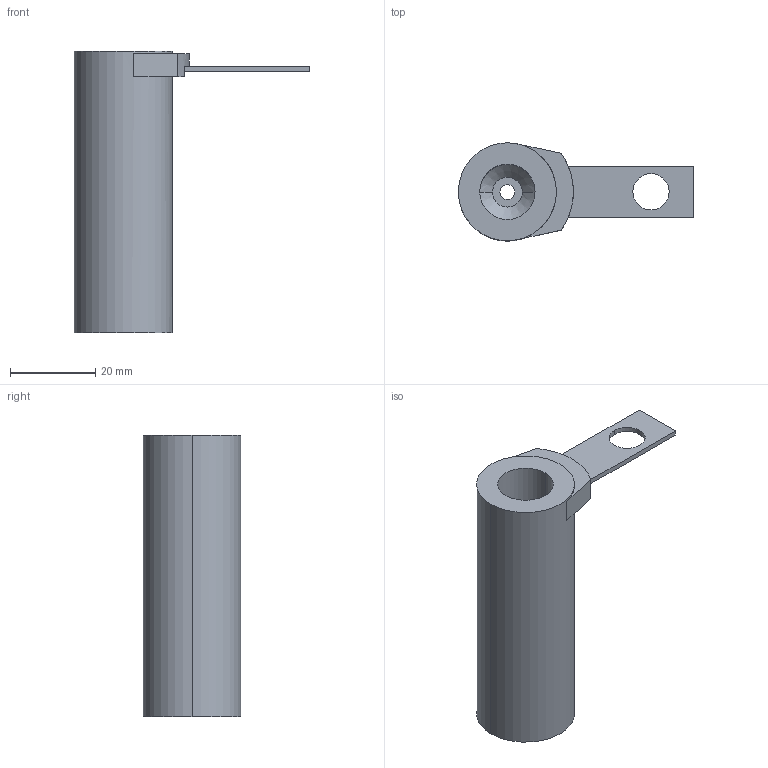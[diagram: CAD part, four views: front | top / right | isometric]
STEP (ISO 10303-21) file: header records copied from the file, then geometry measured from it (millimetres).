
FILE_DESCRIPTION(/* description */ (''),/* implementation_level */ '2;1');
FILE_NAME(/* name */ '3d_tus13-66b_06256_r00.stp',/* time_stamp */ '2011-01-10T14:08:54+09:00',/* author */ ('MISUMI'),/* organization */ (''),/* preprocessor_version */ 'ST-DEVELOPER v11',/* originating_system */ 'UGS - NX 5.0',/* authorisation */ '');
FILE_SCHEMA (('CONFIG_CONTROL_DESIGN'));
Length unit declared in the file: millimetre
Products named in the file (1): 3d_tus13-66b_06256_r00
Bounding box: 55.21 x 23 x 66 mm (x, y, z)
Volume: 20314.3 mm3; surface area: 9056 mm2
Topology: 2 solids, 2 shells, 28 faces, 67 edges, 44 vertices
Faces by surface type: plane 17, cylinder 9, cone 2
Entity records: 915 total; most frequent: DIRECTION 153, CARTESIAN_POINT 140, ORIENTED_EDGE 134, EDGE_CURVE 67, AXIS2_PLACEMENT_3D 57, VERTEX_POINT 44, LINE 39, VECTOR 39
